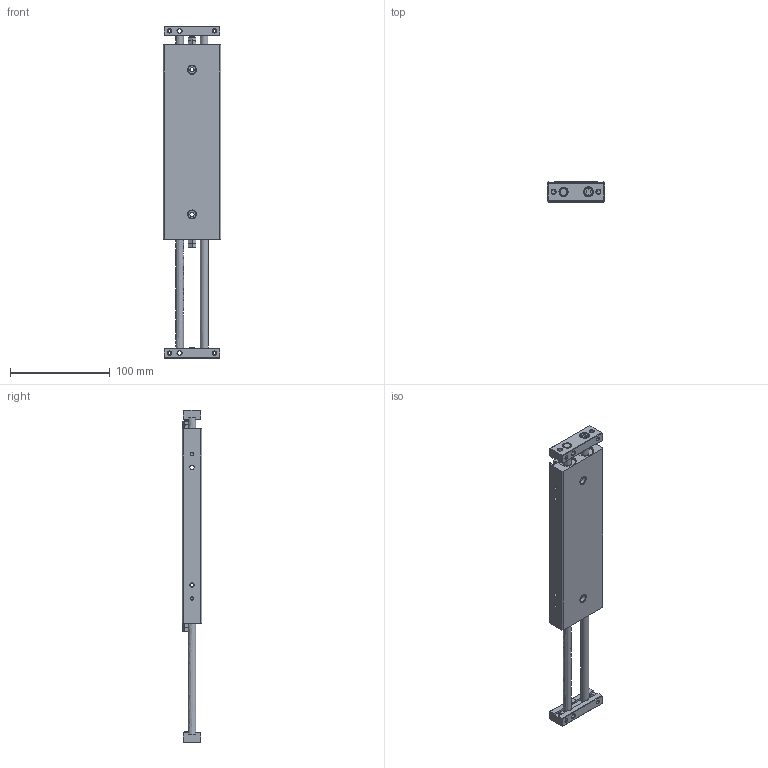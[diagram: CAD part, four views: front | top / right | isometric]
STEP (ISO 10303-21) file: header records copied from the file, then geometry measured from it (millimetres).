
FILE_DESCRIPTION((''),'2;1');
FILE_NAME('I:\3D電子目錄\氣缸\STX\STX\STX16\STX16x100.stp','2007-10-01T17:19:48',('Administrator'),(''),'Autodesk Inventor 11','Autodesk Inventor 11','');
FILE_SCHEMA(('AUTOMOTIVE_DESIGN { 1 0 10303 214 1 1 1 1 }'));
Length unit declared in the file: millimetre
Products named in the file (1): STX16
Bounding box: 58 x 20 x 333 mm (x, y, z)
Volume: 237769.9 mm3; surface area: 56294.4 mm2
Topology: 1 solids, 1 shells, 267 faces, 674 edges, 423 vertices
Faces by surface type: plane 130, cone 76, bspline 36, cylinder 21, torus 4
Full cylindrical faces by diameter (mm): 3.242 x2, 6 x2, 8 x6, 8.2 x2, 8.5 x2, 9 x2, 17 x2, 18 x2
Entity records: 8177 total; most frequent: CARTESIAN_POINT 2631, ORIENTED_EDGE 1088, DIRECTION 1066, EDGE_CURVE 544, EDGE_LOOP 414, AXIS2_PLACEMENT_3D 403, VERTEX_POINT 380, FACE_OUTER_BOUND 266
